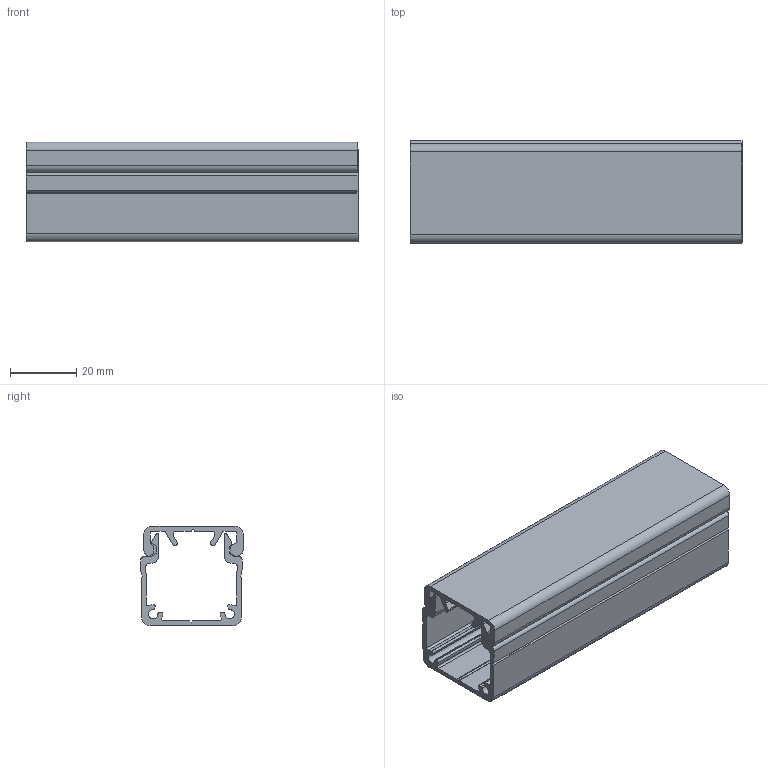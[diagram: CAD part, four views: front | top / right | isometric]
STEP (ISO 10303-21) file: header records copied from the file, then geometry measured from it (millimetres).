
FILE_DESCRIPTION (( 'STEP AP203' ), '1' );
FILE_NAME ('ASSIEME CANALINA 30.STEP', '2021-03-24T08:26:42', ( '' ), ( '' ), 'SwSTEP 2.0', 'SolidWorks 2018', '' );
FILE_SCHEMA (( 'CONFIG_CONTROL_DESIGN' ));
Length unit declared in the file: millimetre
Products named in the file (3): ASSIEME CANALINA 30; 084.101.093_Default<A macchina>; 084.101.092_Default<A macchina>
Assembly tree (2 placements, depth 2):
  ASSIEME CANALINA 30
    084.101.092_Default<A macchina>
    084.101.093_Default<A macchina>
Bounding box: 100 x 30.85 x 30 mm (x, y, z)
Volume: 25976.6 mm3; surface area: 30183.2 mm2
Topology: 2 solids, 2 shells, 107 faces, 309 edges, 206 vertices
Faces by surface type: cylinder 61, plane 46
Entity records: 3870 total; most frequent: DIRECTION 655, CARTESIAN_POINT 627, ORIENTED_EDGE 618, EDGE_CURVE 309, AXIS2_PLACEMENT_3D 234, VERTEX_POINT 206, LINE 187, VECTOR 187
